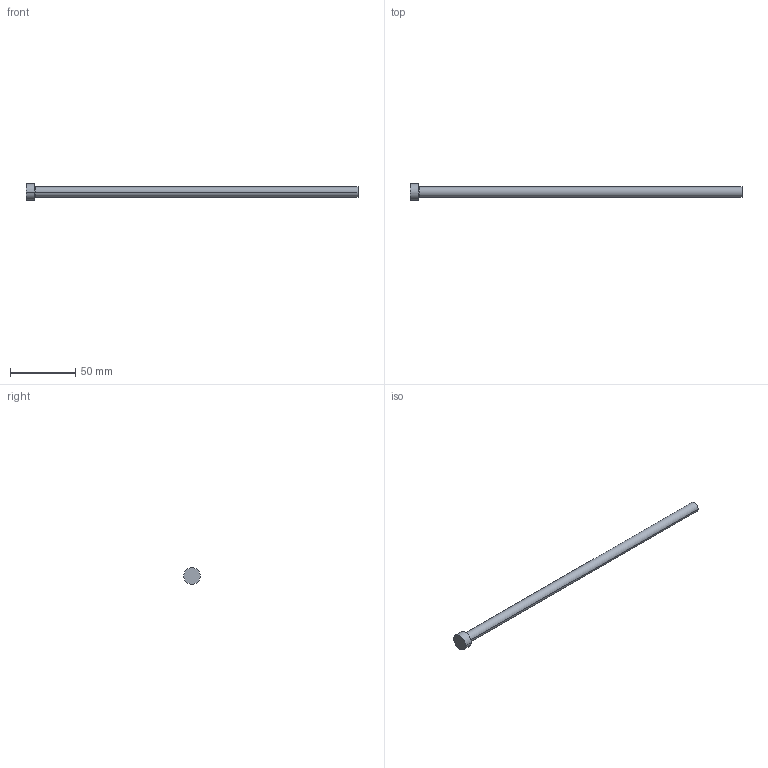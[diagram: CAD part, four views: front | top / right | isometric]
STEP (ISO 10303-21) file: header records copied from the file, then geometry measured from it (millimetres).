
FILE_DESCRIPTION (( 'STEP AP214' ), '1' );
FILE_NAME ('P21-10.STEP', '2020-03-12T09:28:16', ( '' ), ( '' ), 'SwSTEP 2.0', 'SolidWorks 2018', '' );
FILE_SCHEMA (( 'AUTOMOTIVE_DESIGN' ));
Length unit declared in the file: inch
Products named in the file (1): P21-10
Bounding box: 254 x 12.7 x 12.7 mm (x, y, z)
Volume: 13038.2 mm3; surface area: 6663.6 mm2
Topology: 1 solids, 1 shells, 13 faces, 24 edges, 14 vertices
Faces by surface type: cone 4, cylinder 4, plane 3, torus 2
Entity records: 366 total; most frequent: DIRECTION 68, CARTESIAN_POINT 52, ORIENTED_EDGE 48, AXIS2_PLACEMENT_3D 30, EDGE_CURVE 24, CIRCLE 16, VERTEX_POINT 14, EDGE_LOOP 14
